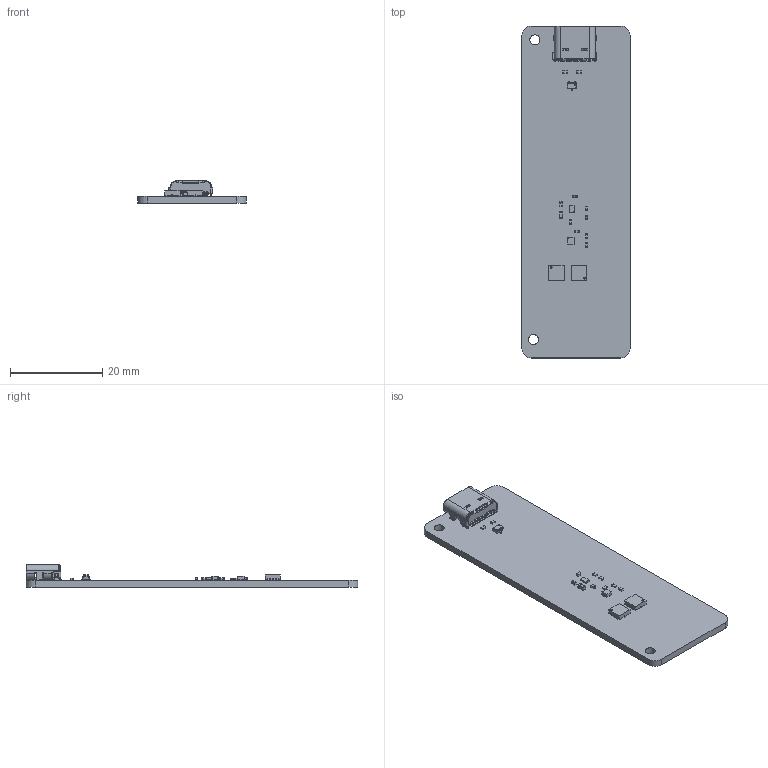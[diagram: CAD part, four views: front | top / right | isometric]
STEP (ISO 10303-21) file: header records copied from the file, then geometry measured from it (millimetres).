
FILE_DESCRIPTION(('KiCad electronic assembly'),'2;1');
FILE_NAME('BMS.step','2026-06-02T08:55:05',('Pcbnew'),('Kicad'), 'Open CASCADE STEP processor 7.9','KiCad to STEP converter','Unknown' );
FILE_SCHEMA(('AUTOMOTIVE_DESIGN { 1 0 10303 214 1 1 1 1 }'));
Length unit declared in the file: millimetre
Products named in the file (12): BMS 1; CSD16406Q3; C_0402_1005Metric; BQ25180YBGR; kicad_embedded_DED7E776472CC67C9ED8765950E85D9C; C_0603_1608Metric; BQ29700DSER; R_0402_1005Metric; USB4105-GF-A; USB4105; NCU15XH103F60RC; BMS_PCB
Assembly tree (19 placements, depth 3):
  BMS 1
    CSD16406Q3  x2
    C_0402_1005Metric  x3
    BQ25180YBGR
    kicad_embedded_DED7E776472CC67C9ED8765950E85D9C
    C_0603_1608Metric
    BQ29700DSER
    R_0402_1005Metric  x6
    USB4105-GF-A
      USB4105
    NCU15XH103F60RC
    BMS_PCB
Bounding box: 23.5 x 72.1 x 4.91 mm (x, y, z)
Volume: 2683.2 mm3; surface area: 4428.4 mm2
Topology: 96 solids, 96 shells, 1793 faces, 4618 edges, 2996 vertices
Faces by surface type: plane 1305, cylinder 424, sphere 26, cone 26, bspline 12
Full cylindrical faces by diameter (mm): 0.65 x2, 2.2 x2
Entity records: 46983 total; most frequent: CARTESIAN_POINT 8302, ORIENTED_EDGE 7630, DIRECTION 7508, EDGE_CURVE 3815, LINE 2962, VECTOR 2962, VERTEX_POINT 2484, AXIS2_PLACEMENT_3D 2273
